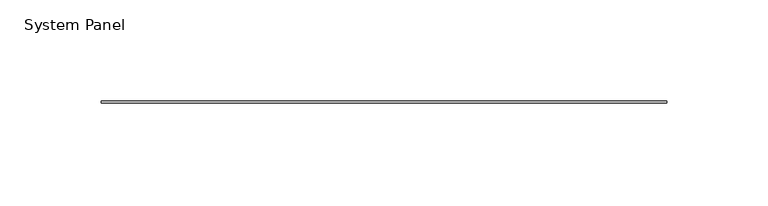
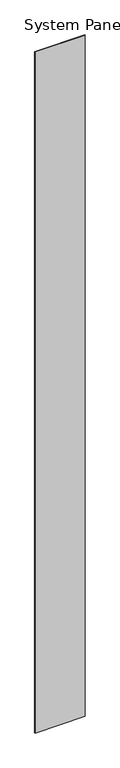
"""IFC4 building model written with IfcOpenShell, lengths in millimetres: plate geometry, System Panel : Stratco_Hiland_Tray."""

from ifc_helpers import new_model, si_unit, origin, origin_with_axes, place, context, project, spatial, polyline, outline, extrude, source, transform, mapped, element, save


def system_panel_9ec93958(model_context):
    return source(origin(), model_context, "Body", "SweptSolid", [
        extrude(outline(polyline([(139.2691801, 2.5), (-139.2691801, 2.5), (-139.2691801, 3.5), (139.2691801, 3.5), (139.2691801, 2.5)])), origin_with_axes(), (0.0, 0.0, 1.0), 4000.0),
    ])


if __name__ == "__main__":
    model = new_model("IFC4")
    model_context = context("Model", 3, world=origin())
    ifc_project = project(units=[si_unit("LENGTHUNIT", "METRE", prefix="MILLI")], contexts=[model_context])
    site = spatial("IfcSite", under=ifc_project)
    building = spatial("IfcBuilding", under=site)
    placement = place(None, origin())
    system_panel_shape = system_panel_9ec93958(model_context)
    element("IfcPlate", 1, ObjectType="System Panel : Stratco_Hiland_Tray", at=placement, inside=building, context=model_context, shape_type="MappedRepresentation", body=[
        mapped(system_panel_shape, transform((0.0, 0.0, 0.0), x_axis=(1.0, 0.0, 0.0), y_axis=(0.0, 1.0, 0.0), z_axis=(0.0, 0.0, 1.0))),
    ])
    save(model, "model.ifc")
